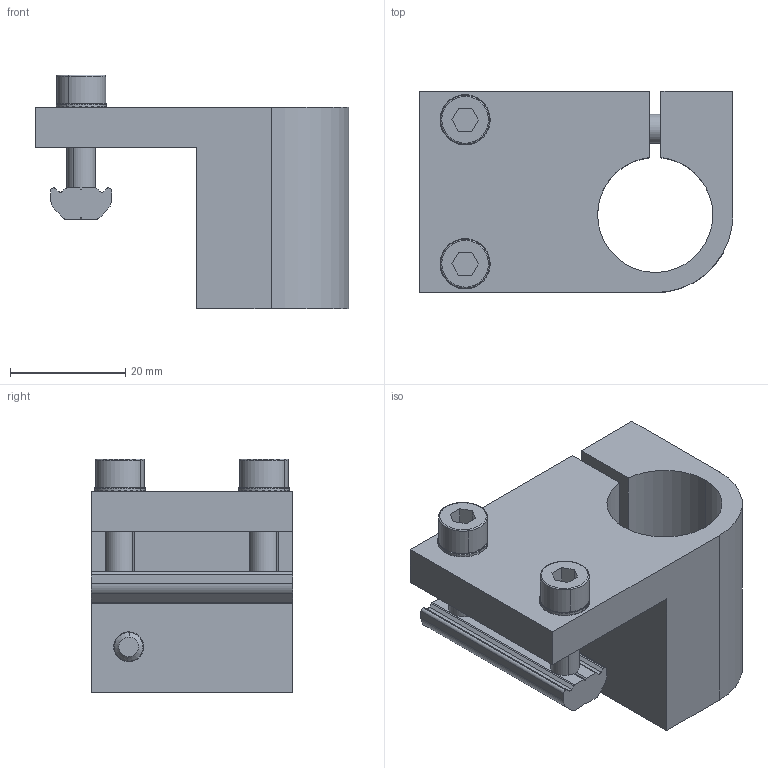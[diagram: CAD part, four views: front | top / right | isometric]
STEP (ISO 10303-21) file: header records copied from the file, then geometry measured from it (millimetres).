
FILE_DESCRIPTION (( 'STEP AP214' ), '1' );
FILE_NAME ('SMBE4-2020.STEP', '2019-11-05T08:44:19', ( '微软用户' ), ( '微软中国' ), 'SwSTEP 2.0', 'SolidWorks 2016', '' );
FILE_SCHEMA (( 'AUTOMOTIVE_DESIGN' ));
Length unit declared in the file: millimetre
Products named in the file (1): SMBE4-2020
Bounding box: 54.5 x 35 x 40.6 mm (x, y, z)
Volume: 28236.5 mm3; surface area: 14273.8 mm2
Topology: 8 solids, 8 shells, 720 faces, 2093 edges, 1385 vertices
Faces by surface type: plane 648, cylinder 60, cone 6, bspline 6
Entity records: 32397 total; most frequent: CARTESIAN_POINT 4796, ORIENTED_EDGE 4186, DIRECTION 4154, EDGE_CURVE 2093, AXIS2_PLACEMENT_3D 1390, VERTEX_POINT 1385, VECTOR 1374, LINE 1374
